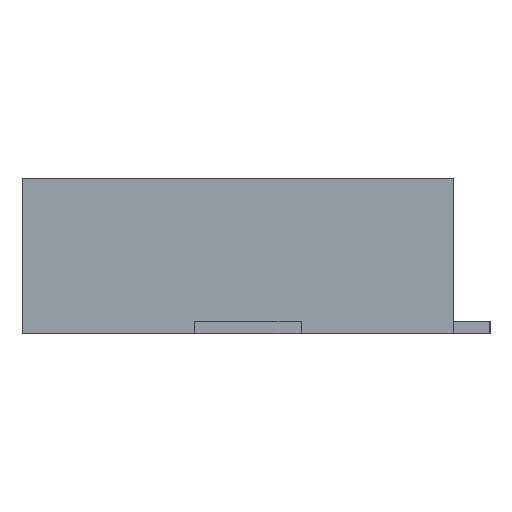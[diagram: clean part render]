
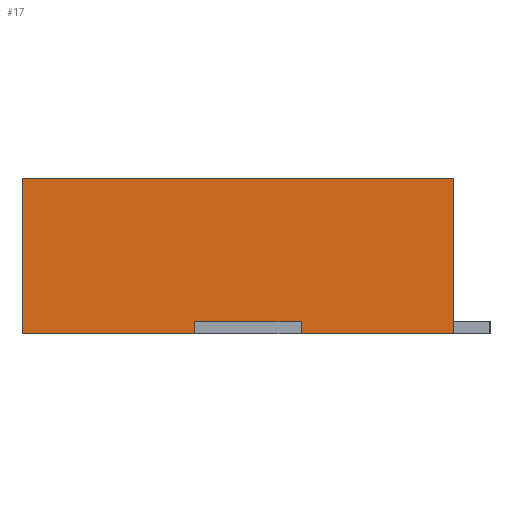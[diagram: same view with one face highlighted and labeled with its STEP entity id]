
A CAD part, left-side view. The second image highlights one B-rep face of the part: STEP entity #17.
In plain terms, the highlighted planar face has unit normal (-1, 0, 0).
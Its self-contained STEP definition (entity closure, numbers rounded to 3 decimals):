
#17 = ADVANCED_FACE('',(#18),#52,.F.);
#18 = FACE_BOUND('',#19,.F.);
#19 = EDGE_LOOP('',(#20,#30,#38,#46));
#20 = ORIENTED_EDGE('',*,*,#21,.F.);
#21 = EDGE_CURVE('',#22,#24,#26,.T.);
#22 = VERTEX_POINT('',#23);
#23 = CARTESIAN_POINT('',(-17.35,0.2,0.));
#24 = VERTEX_POINT('',#25);
#25 = CARTESIAN_POINT('',(-17.35,0.2,1.9));
#26 = LINE('',#27,#28);
#27 = CARTESIAN_POINT('',(-17.35,0.2,0.));
#28 = VECTOR('',#29,1.);
#29 = DIRECTION('',(0.,0.,1.));
#30 = ORIENTED_EDGE('',*,*,#31,.T.);
#31 = EDGE_CURVE('',#22,#32,#34,.T.);
#32 = VERTEX_POINT('',#33);
#33 = CARTESIAN_POINT('',(-17.35,5.45,0.));
#34 = LINE('',#35,#36);
#35 = CARTESIAN_POINT('',(-17.35,0.2,0.));
#36 = VECTOR('',#37,1.);
#37 = DIRECTION('',(-0.,1.,0.));
#38 = ORIENTED_EDGE('',*,*,#39,.T.);
#39 = EDGE_CURVE('',#32,#40,#42,.T.);
#40 = VERTEX_POINT('',#41);
#41 = CARTESIAN_POINT('',(-17.35,5.45,1.9));
#42 = LINE('',#43,#44);
#43 = CARTESIAN_POINT('',(-17.35,5.45,0.));
#44 = VECTOR('',#45,1.);
#45 = DIRECTION('',(0.,0.,1.));
#46 = ORIENTED_EDGE('',*,*,#47,.F.);
#47 = EDGE_CURVE('',#24,#40,#48,.T.);
#48 = LINE('',#49,#50);
#49 = CARTESIAN_POINT('',(-17.35,0.2,1.9));
#50 = VECTOR('',#51,1.);
#51 = DIRECTION('',(-0.,1.,0.));
#52 = PLANE('',#53);
#53 = AXIS2_PLACEMENT_3D('',#54,#55,#56);
#54 = CARTESIAN_POINT('',(-17.35,0.2,0.));
#55 = DIRECTION('',(1.,0.,-0.));
#56 = DIRECTION('',(0.,0.,1.));
